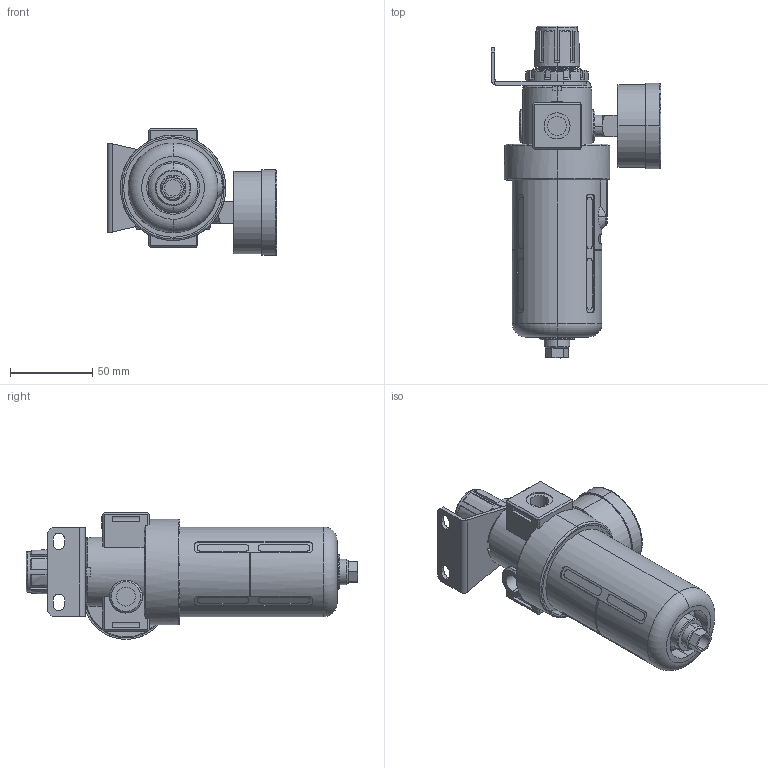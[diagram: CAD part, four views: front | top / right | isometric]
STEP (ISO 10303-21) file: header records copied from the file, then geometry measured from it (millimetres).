
FILE_DESCRIPTION (( 'STEP AP214' ), '1' );
FILE_NAME ('BFR-2000.STEP', '2016-01-21T16:12:06', ( '' ), ( '' ), 'SwSTEP 2.0', 'SolidWorks 2016', '' );
FILE_SCHEMA (( 'AUTOMOTIVE_DESIGN' ));
Length unit declared in the file: millimetre
Products named in the file (6): 1; 3; 2; BFR-2000; 5; 4
Assembly tree (5 placements, depth 2):
  BFR-2000
    1
    2
    3
    4
    5
Bounding box: 103 x 201.6 x 77 mm (x, y, z)
Volume: 270111.5 mm3; surface area: 89636.7 mm2
Topology: 5 solids, 5 shells, 1032 faces, 2807 edges, 1847 vertices
Faces by surface type: plane 650, cylinder 289, cone 71, torus 22
Entity records: 45879 total; most frequent: CARTESIAN_POINT 7856, ORIENTED_EDGE 5614, DIRECTION 5434, EDGE_CURVE 2807, VECTOR 1906, LINE 1906, VERTEX_POINT 1847, AXIS2_PLACEMENT_3D 1764
